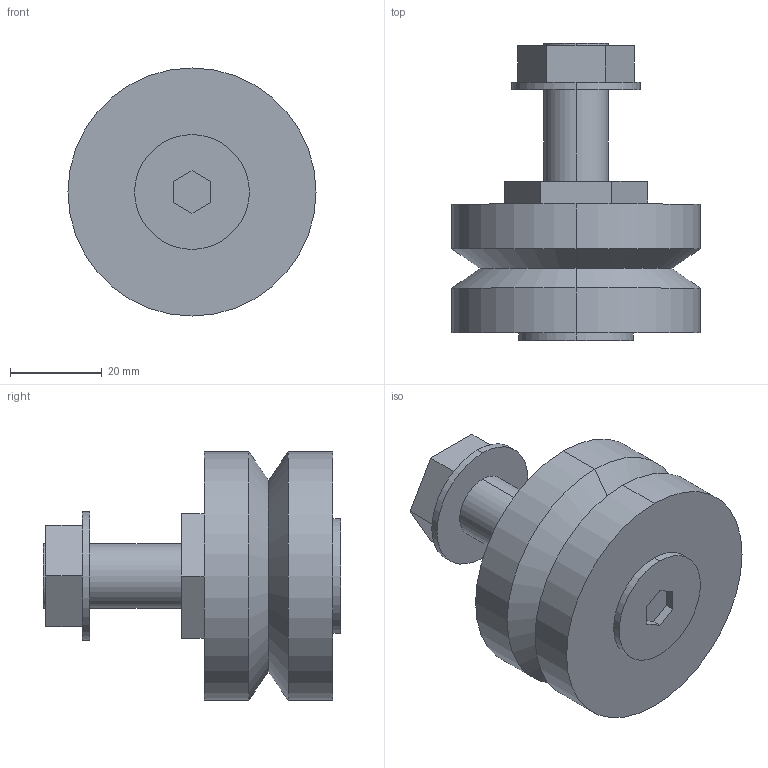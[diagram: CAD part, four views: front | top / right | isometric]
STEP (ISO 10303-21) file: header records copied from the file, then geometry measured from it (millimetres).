
FILE_DESCRIPTION(('STEP AP203'),'1');
FILE_NAME('rlj_54_c.stp','2020-09-21T07:42:34',('TraceParts'),('TraceParts S.A.'),'Spatial InterOp 3D',' ',' ');
FILE_SCHEMA(('CONFIG_CONTROL_DESIGN'));
Length unit declared in the file: millimetre
Products named in the file (1): 1
Bounding box: 54 x 64.7 x 54 mm (x, y, z)
Volume: 71372.3 mm3; surface area: 13352.1 mm2
Topology: 1 solids, 1 shells, 43 faces, 96 edges, 62 vertices
Faces by surface type: plane 27, cylinder 12, cone 4
Entity records: 1232 total; most frequent: DIRECTION 210, CARTESIAN_POINT 202, ORIENTED_EDGE 192, EDGE_CURVE 96, AXIS2_PLACEMENT_3D 70, LINE 70, VECTOR 70, VERTEX_POINT 62
